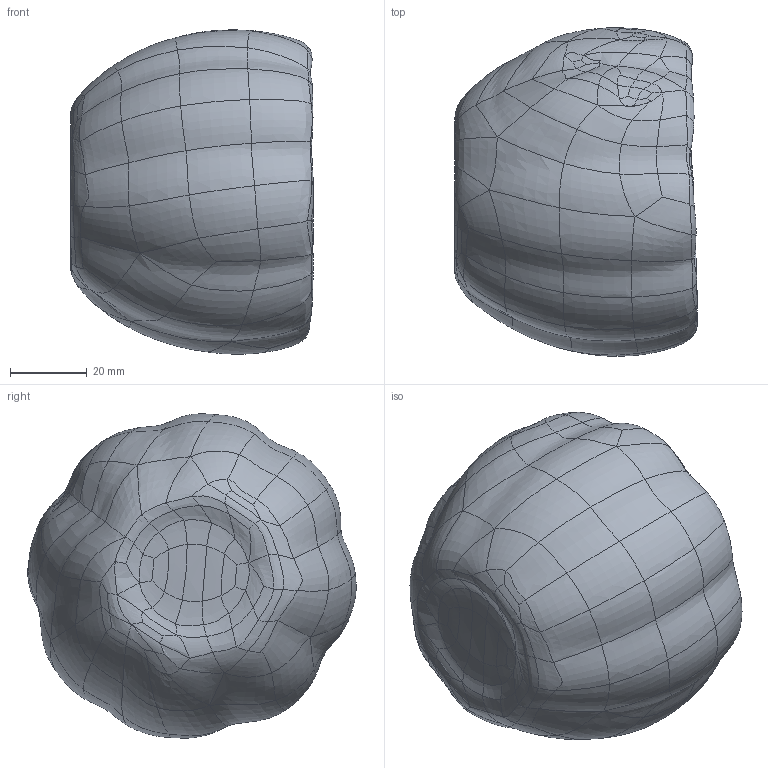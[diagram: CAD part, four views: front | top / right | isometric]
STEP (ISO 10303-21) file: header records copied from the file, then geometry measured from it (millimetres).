
FILE_DESCRIPTION(('STEP AP214'),'1');
FILE_NAME('doniczka.stp','2023-10-30T08:24:28',(' '),(' '),'Spatial InterOp 3D',' ',' ');
FILE_SCHEMA(('AUTOMOTIVE_DESIGN { 1 0 10303 214 1 1 1 1 }'));
Length unit declared in the file: millimetre
Products named in the file (1): 1
Bounding box: 63.27 x 85.57 x 84.48 mm (x, y, z)
Volume: 99286.8 mm3; surface area: 31202.7 mm2
Topology: 1 solids, 1 shells, 501 faces, 1002 edges, 503 vertices
Faces by surface type: bspline 501
Entity records: 97933 total; most frequent: CARTESIAN_POINT 91396, ORIENTED_EDGE 2004, EDGE_CURVE 1002, B_SPLINE_CURVE_WITH_KNOTS 1002, VERTEX_POINT 503, ADVANCED_FACE 501, FACE_OUTER_BOUND 501, B_SPLINE_SURFACE_WITH_KNOTS 501
